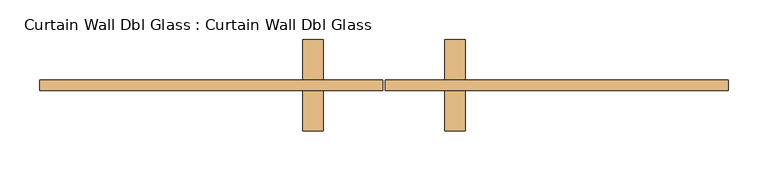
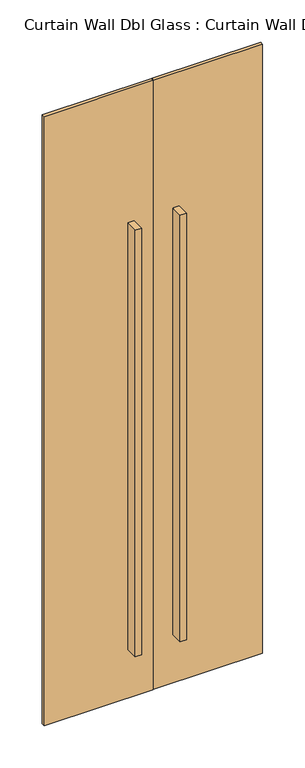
"""IFC4 building model written with IfcOpenShell, lengths in millimetres: door geometry, Curtain Wall Dbl Glass : Curtain Wall Dbl Glass."""

from ifc_helpers import new_model, si_unit, frame, origin, origin_with_axes, place, context, project, spatial, polyline, outline, extrude, source, transform, mapped, element, save


def curtain_wall_dbl_glass_curtain_wall_dbl_glass_60f99fc0(model_context):
    return source(origin(), model_context, "Body", "SweptSolid", [
        extrude(outline(polyline([(-76.2, 12.7), (-76.2, -38.1), (-101.6, -38.1), (-101.6, 12.7), (-76.2, 12.7)])), frame((0.0, 0.0, 203.2), z_axis=(0.0, 0.0, 1.0), x_axis=(1.0, 0.0, 0.0)), (0.0, 0.0, 1.0), 1778.0),
        extrude(outline(polyline([(-101.6, -101.6), (-101.6, -50.8), (-76.2, -50.8), (-76.2, -101.6), (-101.6, -101.6)])), frame((0.0, 0.0, 203.2), z_axis=(0.0, 0.0, 1.0), x_axis=(1.0, 0.0, 0.0)), (0.0, 0.0, 1.0), 1778.0),
        extrude(outline(polyline([(101.6, 12.7), (101.6, -38.1), (76.2, -38.1), (76.2, 12.7), (101.6, 12.7)])), frame((0.0, 0.0, 203.2), z_axis=(0.0, 0.0, 1.0), x_axis=(1.0, 0.0, 0.0)), (0.0, 0.0, 1.0), 1778.0),
        extrude(outline(polyline([(76.2, -101.6), (76.2, -50.8), (101.6, -50.8), (101.6, -101.6), (76.2, -101.6)])), frame((0.0, 0.0, 203.2), z_axis=(0.0, 0.0, 1.0), x_axis=(1.0, 0.0, 0.0)), (0.0, 0.0, 1.0), 1778.0),
        extrude(outline(polyline([(-1.5875, -38.1), (-1.5875, -50.8), (-431.3875023, -50.8), (-431.3875023, -38.1), (-1.5875, -38.1)])), origin_with_axes(), (0.0, 0.0, 1.0), 2540.0),
        extrude(outline(polyline([(431.3875023, -38.1), (431.3875023, -50.8), (1.5875, -50.8), (1.5875, -38.1), (431.3875023, -38.1)])), origin_with_axes(), (0.0, 0.0, 1.0), 2540.0),
    ])


if __name__ == "__main__":
    model = new_model("IFC4")
    model_context = context("Model", 3, world=origin())
    ifc_project = project(units=[si_unit("LENGTHUNIT", "METRE", prefix="MILLI")], contexts=[model_context])
    site = spatial("IfcSite", under=ifc_project)
    building = spatial("IfcBuilding", under=site)
    placement = place(None, origin())
    curtain_wall_dbl_glass_curtain_wall_dbl_glass_shape = curtain_wall_dbl_glass_curtain_wall_dbl_glass_60f99fc0(model_context)
    element("IfcDoor", 1, ObjectType="Curtain Wall Dbl Glass : Curtain Wall Dbl Glass", at=placement, inside=building, context=model_context, shape_type="MappedRepresentation", body=[
        mapped(curtain_wall_dbl_glass_curtain_wall_dbl_glass_shape, transform((0.0, 0.0, 0.0), x_axis=(1.0, 0.0, 0.0), y_axis=(0.0, 1.0, 0.0), z_axis=(0.0, 0.0, 1.0))),
    ])
    save(model, "model.ifc")
